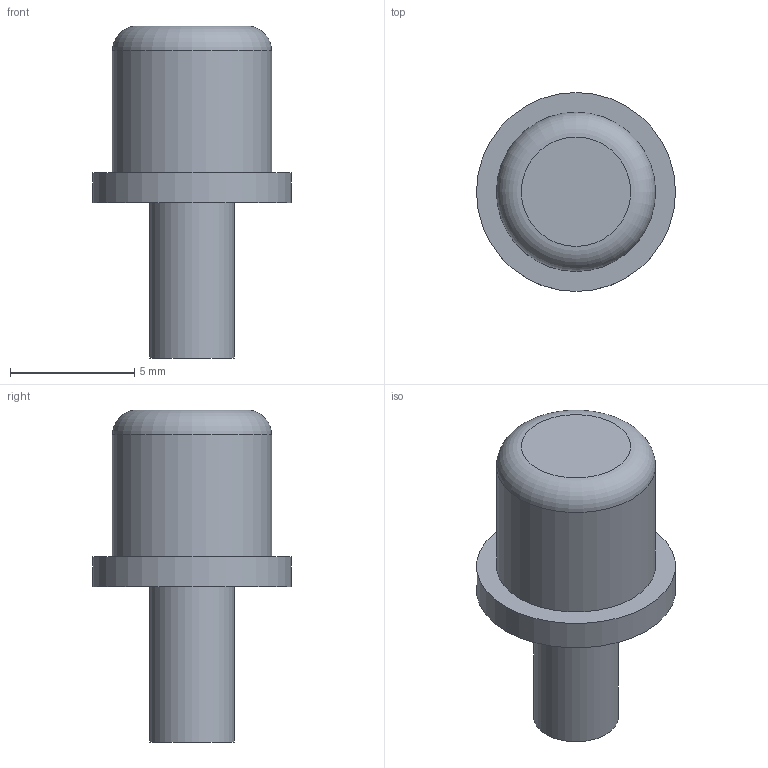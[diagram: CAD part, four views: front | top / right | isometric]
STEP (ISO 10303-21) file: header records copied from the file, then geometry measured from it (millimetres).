
FILE_DESCRIPTION(('Open CASCADE Model'),'2;1');
FILE_NAME('Open CASCADE Shape Model','2026-10-01T10:53:26',('Author'),( 'Open CASCADE'),'Open CASCADE STEP processor 7.9','Open CASCADE 7.9' ,'Unknown');
FILE_SCHEMA(('AUTOMOTIVE_DESIGN { 1 0 10303 214 1 1 1 1 }'));
Length unit declared in the file: millimetre
Products named in the file (1): Open CASCADE STEP translator 7.9 3
Bounding box: 8 x 8 x 13.35 mm (x, y, z)
Volume: 302.9 mm3; surface area: 307 mm2
Topology: 1 solids, 1 shells, 8 faces, 11 edges, 7 vertices
Faces by surface type: plane 4, cylinder 3, torus 1
Full cylindrical faces by diameter (mm): 3.4 x1, 6.4 x1, 8 x1
Entity records: 328 total; most frequent: DIRECTION 59, CARTESIAN_POINT 49, ORIENTED_EDGE 22, PCURVE 22, DEFINITIONAL_REPRESENTATION 22, LINE 19, VECTOR 19, AXIS2_PLACEMENT_3D 17
